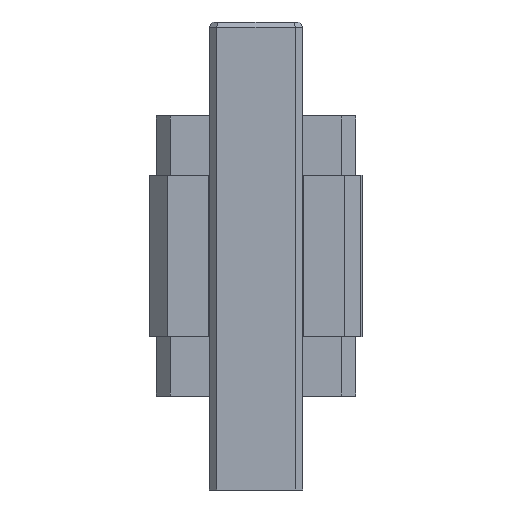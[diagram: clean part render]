
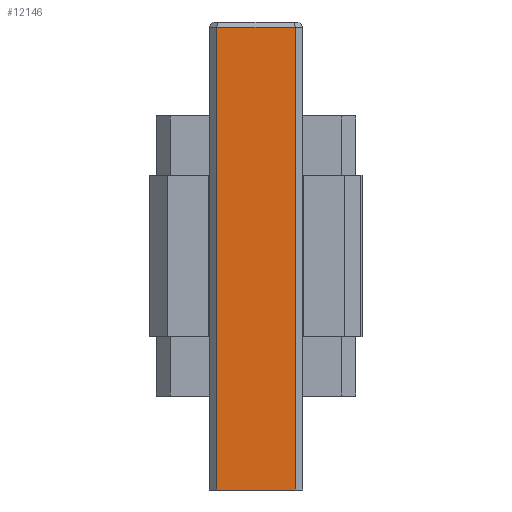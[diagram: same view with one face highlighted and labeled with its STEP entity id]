
A CAD part, front view. The second image highlights one B-rep face of the part: STEP entity #12146.
In plain terms, the highlighted planar face has unit normal (0, -1, 0).
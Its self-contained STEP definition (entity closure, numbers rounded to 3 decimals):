
#11107=DIRECTION('',(1.,0.,0.));
#11108=VECTOR('',#11107,12.6);
#11109=CARTESIAN_POINT('',(-6.3,-9.85,-37.35));
#11110=LINE('',#11109,#11108);
#11380=DIRECTION('',(1.,0.,0.));
#11381=VECTOR('',#11380,12.6);
#11382=CARTESIAN_POINT('',(-6.3,-9.85,36.484));
#11383=LINE('',#11382,#11381);
#11384=DIRECTION('',(0.,0.,1.));
#11385=VECTOR('',#11384,73.834);
#11386=CARTESIAN_POINT('',(-6.3,-9.85,-37.35));
#11387=LINE('',#11386,#11385);
#11392=DIRECTION('',(0.,0.,1.));
#11393=VECTOR('',#11392,73.834);
#11394=CARTESIAN_POINT('',(6.3,-9.85,-37.35));
#11395=LINE('',#11394,#11393);
#11578=CARTESIAN_POINT('',(-6.3,-9.85,-37.35));
#11579=VERTEX_POINT('',#11578);
#11580=CARTESIAN_POINT('',(6.3,-9.85,-37.35));
#11581=VERTEX_POINT('',#11580);
#11642=CARTESIAN_POINT('',(6.3,-9.85,36.484));
#11643=VERTEX_POINT('',#11642);
#11646=CARTESIAN_POINT('',(-6.3,-9.85,36.484));
#11647=VERTEX_POINT('',#11646);
#12134=CARTESIAN_POINT('',(-6.3,-9.85,-37.35));
#12135=DIRECTION('',(0.,-1.,0.));
#12136=DIRECTION('',(1.,0.,0.));
#12137=AXIS2_PLACEMENT_3D('',#12134,#12135,#12136);
#12138=PLANE('',#12137);
#12139=ORIENTED_EDGE('',*,*,#12125,.T.);
#12141=ORIENTED_EDGE('',*,*,#12140,.F.);
#12142=ORIENTED_EDGE('',*,*,#11727,.F.);
#12143=ORIENTED_EDGE('',*,*,#12100,.T.);
#12144=EDGE_LOOP('',(#12139,#12141,#12142,#12143));
#12145=FACE_OUTER_BOUND('',#12144,.F.);
#11727=EDGE_CURVE('',#11579,#11581,#11110,.T.);
#12100=EDGE_CURVE('',#11579,#11647,#11387,.T.);
#12125=EDGE_CURVE('',#11647,#11643,#11383,.T.);
#12140=EDGE_CURVE('',#11581,#11643,#11395,.T.);
#12146=ADVANCED_FACE('',(#12145),#12138,.T.);
